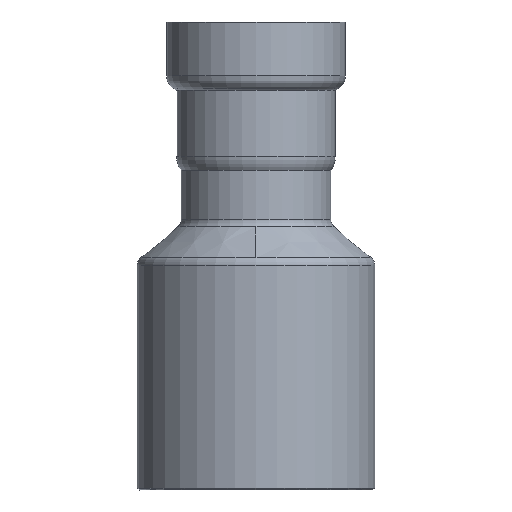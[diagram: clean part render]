
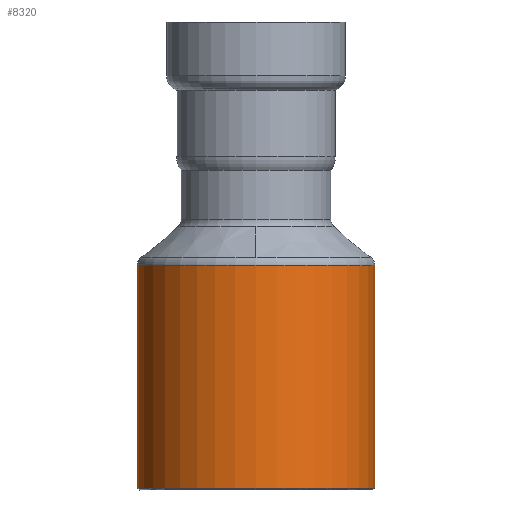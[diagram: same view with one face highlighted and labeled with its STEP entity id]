
A CAD part, left-side view. The second image highlights one B-rep face of the part: STEP entity #8320.
In plain terms, the highlighted cylindrical face has radius 30.175 mm (diameter 60.35 mm), a partial arc.
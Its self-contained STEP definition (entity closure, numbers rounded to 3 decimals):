
#480=CARTESIAN_POINT('',(121.995,38.7,0.
));
#490=DIRECTION('',(1.,0.,0.));
#500=DIRECTION('',(0.,-1.,
0.));
#510=AXIS2_PLACEMENT_3D('',#480,#490,#500);
#520=CIRCLE('',#510,30.175);
#550=CARTESIAN_POINT('',(121.995,8.525,
0.001));
#560=VERTEX_POINT('',#550);
#860=CARTESIAN_POINT('',(121.995,68.875,
-0.001));
#870=VERTEX_POINT('',#860);
#3880=CARTESIAN_POINT('',(152.386,68.875,
-0.001));
#3890=DIRECTION('',(1.,0.,0.));
#3900=VECTOR('',#3890,1.);
#3910=LINE('',#3880,#3900);
#3920=CARTESIAN_POINT('',(178.636,68.875,
-0.001));
#3930=VERTEX_POINT('',#3920);
#3940=EDGE_CURVE('',#870,#3930,#3910,.T.);
#3960=CARTESIAN_POINT('',(178.636,38.7,
0.));
#3970=DIRECTION('',(1.,0.,0.));
#3980=DIRECTION('',(0.,-1.,
0.));
#3990=AXIS2_PLACEMENT_3D('',#3960,#3970,#3980);
#4000=CIRCLE('',#3990,30.175);
#4050=CARTESIAN_POINT('',(178.636,8.525,
0.001));
#4060=VERTEX_POINT('',#4050);
#4090=CARTESIAN_POINT('',(152.386,8.525,
0.001));
#4100=DIRECTION('',(1.,0.,0.));
#4110=VECTOR('',#4100,1.);
#4120=LINE('',#4090,#4110);
#4130=EDGE_CURVE('',#560,#4060,#4120,.T.);
#5260=CARTESIAN_POINT('',(178.636,38.7,
-30.175));
#5270=VERTEX_POINT('',#5260);
#5300=EDGE_CURVE('',#4060,#5270,#4000,.T.);
#7710=EDGE_CURVE('',#5270,#3930,#4000,.T.);
#8190=CARTESIAN_POINT('',(152.386,38.7,
0.));
#8200=DIRECTION('',(1.,0.,0.));
#8210=DIRECTION('',(0.,-1.,
0.));
#8220=AXIS2_PLACEMENT_3D('',#8190,#8200,#8210);
#8230=CYLINDRICAL_SURFACE('',#8220,30.175);
#8240=EDGE_CURVE('',#560,#870,#520,.T.);
#8250=ORIENTED_EDGE('',*,*,#8240,.T.);
#8260=ORIENTED_EDGE('',*,*,#4130,.F.);
#8270=ORIENTED_EDGE('',*,*,#5300,.F.);
#8280=ORIENTED_EDGE('',*,*,#7710,.F.);
#8290=ORIENTED_EDGE('',*,*,#3940,.T.);
#8300=EDGE_LOOP('',(#8290,#8280,#8270,#8260,#8250));
#8310=FACE_OUTER_BOUND('',#8300,.T.);
#8320=ADVANCED_FACE('',(#8310),#8230,.T.);
